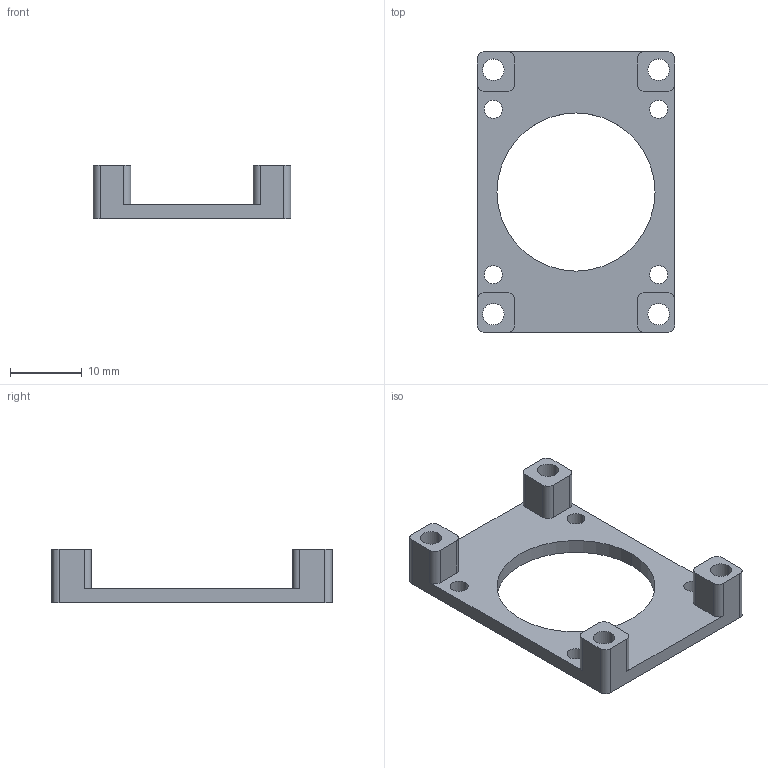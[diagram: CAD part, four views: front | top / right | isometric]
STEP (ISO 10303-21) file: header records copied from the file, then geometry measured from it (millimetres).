
FILE_DESCRIPTION (( 'STEP AP214' ), '1' );
FILE_NAME ('flngia pamoco.STEP', '2016-02-27T11:26:55', ( '' ), ( '' ), 'SwSTEP 2.0', 'SolidWorks 2012', '' );
FILE_SCHEMA (( 'AUTOMOTIVE_DESIGN' ));
Length unit declared in the file: millimetre
Products named in the file (1): flngia pamoco
Bounding box: 27.5 x 39 x 7.5 mm (x, y, z)
Volume: 1748.1 mm3; surface area: 2468.8 mm2
Topology: 1 solids, 1 shells, 52 faces, 150 edges, 100 vertices
Faces by surface type: cylinder 34, plane 18
Entity records: 1812 total; most frequent: DIRECTION 324, CARTESIAN_POINT 303, ORIENTED_EDGE 300, EDGE_CURVE 150, AXIS2_PLACEMENT_3D 121, VERTEX_POINT 100, VECTOR 82, LINE 82
